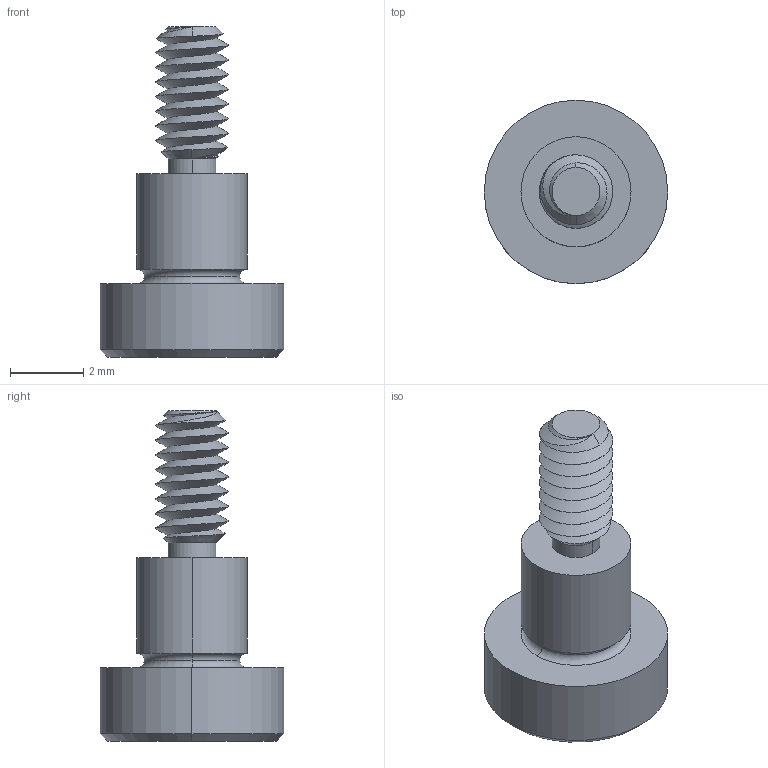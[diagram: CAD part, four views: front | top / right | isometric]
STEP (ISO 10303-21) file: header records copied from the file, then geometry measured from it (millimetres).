
FILE_DESCRIPTION (( 'STEP AP203' ), '1' );
FILE_NAME ('P0130.030-003-B2.step', '2021-11-09T20:52:42', ( '' ), ( '' ), 'SwSTEP 2.0', 'SolidWorks 2019', '' );
FILE_SCHEMA (( 'CONFIG_CONTROL_DESIGN' ));
Length unit declared in the file: millimetre
Products named in the file (1): P0130.030-003-B2
Bounding box: 5 x 5 x 9 mm (x, y, z)
Volume: 64.6 mm3; surface area: 144.4 mm2
Topology: 1 solids, 1 shells, 58 faces, 136 edges, 81 vertices
Faces by surface type: cylinder 22, plane 16, cone 14, torus 4, bspline 2
Entity records: 2452 total; most frequent: CARTESIAN_POINT 1166, ORIENTED_EDGE 268, DIRECTION 241, EDGE_CURVE 134, AXIS2_PLACEMENT_3D 97, VERTEX_POINT 81, EDGE_LOOP 61, FACE_OUTER_BOUND 58
